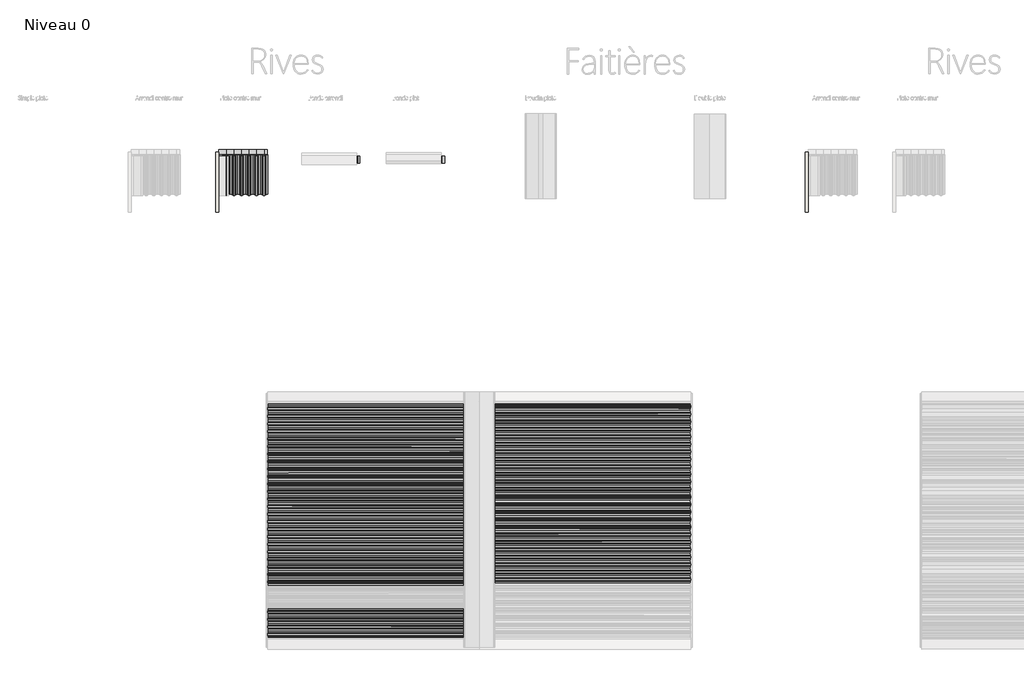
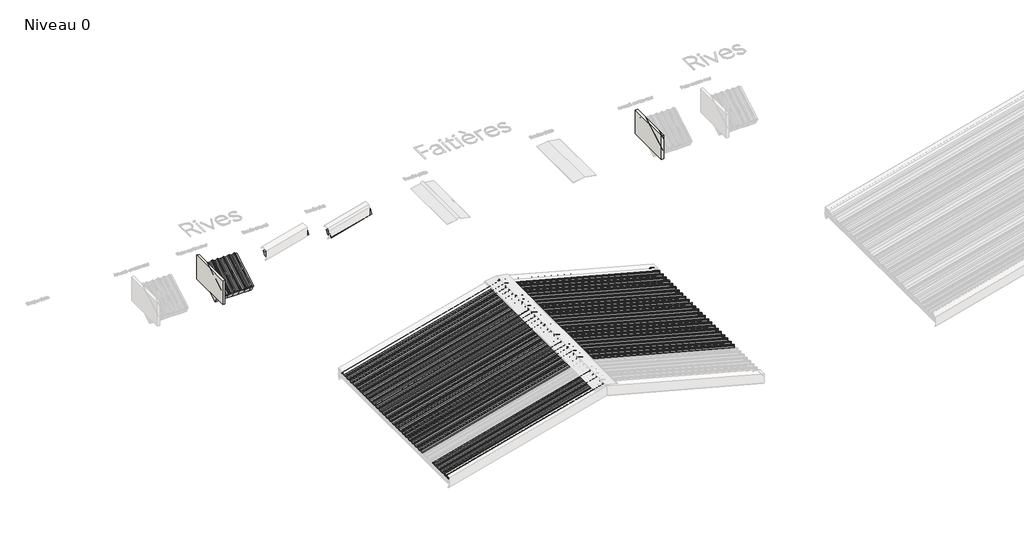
# One storey, part 2 of 26: 69 plates, 61 members, 2 walls.
"""IFC4 building model written with IfcOpenShell, lengths in millimetres."""

from ifc_helpers import new_model, si_unit, origin, origin_with_axes, place, context, project, spatial, polyline, outline, extrude, transform, mapped, element, save
from components import meneau_rectangulaire_3ecfb573, meneau_rectangulaire_c6909a84, vide_8d6fe587, vide_3626a5d1, vide_4c8c02ac, vide_0bd5e38c, vide_01bff3c3, vide_253f0f0f, vide_02c59cd9, vide_5da8b72d

model = new_model("IFC4")

# Units and contexts
model_context = context("Model", 3, world=origin())
ifc_project = project(units=[si_unit("LENGTHUNIT", "METRE", prefix="MILLI")], contexts=[model_context])

# Site, building, storey
site = spatial("IfcSite", under=ifc_project)
building = spatial("IfcBuilding", under=site)
storey = spatial("IfcBuildingStorey", under=building, Name="Niveau 0", Elevation=0.0)

# Members
placement = place(None, origin())
meneau_rectangulaire_shape = meneau_rectangulaire_3ecfb573(model_context)
element("IfcMember", 1, ObjectType="Meneau rectangulaire : Regolare 800", at=placement, inside=storey, context=model_context, shape_type="MappedRepresentation", body=[
    mapped(meneau_rectangulaire_shape, transform((328.6564984, -8904.2596825, 269.9457298), x_axis=(1.0, 0.0, 0.0), y_axis=(0.0, 0.5000000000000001, -0.8660254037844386), z_axis=(0.0, 0.8660254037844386, 0.5000000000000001))),
])
element("IfcMember", 2, ObjectType="Meneau rectangulaire : Regolare 800", at=placement, inside=storey, context=model_context, shape_type="MappedRepresentation", body=[
    mapped(meneau_rectangulaire_shape, transform((417.6564984, -8904.2596825, 269.9457298), x_axis=(1.0, 0.0, 0.0), y_axis=(0.0, 0.5000000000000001, -0.8660254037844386), z_axis=(0.0, 0.8660254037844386, 0.5000000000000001))),
])
element("IfcMember", 3, ObjectType="Meneau rectangulaire : Regolare 800", at=placement, inside=storey, context=model_context, shape_type="MappedRepresentation", body=[
    mapped(meneau_rectangulaire_shape, transform((506.6564984, -8904.2596825, 269.9457298), x_axis=(1.0, 0.0, 0.0), y_axis=(0.0, 0.5000000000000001, -0.8660254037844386), z_axis=(0.0, 0.8660254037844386, 0.5000000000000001))),
])
element("IfcMember", 4, ObjectType="Meneau rectangulaire : Regolare 800", at=placement, inside=storey, context=model_context, shape_type="MappedRepresentation", body=[
    mapped(meneau_rectangulaire_shape, transform((595.6564984, -8904.2596825, 269.9457298), x_axis=(1.0, 0.0, 0.0), y_axis=(0.0, 0.5000000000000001, -0.8660254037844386), z_axis=(0.0, 0.8660254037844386, 0.5000000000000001))),
])
element("IfcMember", 5, ObjectType="Meneau rectangulaire : Regolare 800", at=placement, inside=storey, context=model_context, shape_type="MappedRepresentation", body=[
    mapped(meneau_rectangulaire_shape, transform((684.6564984, -8904.2596825, 269.9457298), x_axis=(1.0, 0.0, 0.0), y_axis=(0.0, 0.5000000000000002, -0.8660254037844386), z_axis=(0.0, 0.8660254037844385, 0.5000000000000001))),
])
element("IfcMember", 6, ObjectType="Meneau rectangulaire : Regolare 800", at=placement, inside=storey, context=model_context, shape_type="MappedRepresentation", body=[
    mapped(meneau_rectangulaire_shape, transform((773.6564984, -8904.2596825, 269.9457298), x_axis=(1.0, 0.0, 0.0), y_axis=(0.0, 0.5000000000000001, -0.8660254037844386), z_axis=(0.0, 0.8660254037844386, 0.5000000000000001))),
])
meneau_rectangulaire_2_shape = meneau_rectangulaire_c6909a84(model_context)
element("IfcMember", 7, ObjectType="Meneau rectangulaire : Regolare 800", at=placement, inside=storey, context=model_context, shape_type="MappedRepresentation", body=[
    mapped(meneau_rectangulaire_2_shape, transform((3316.3996071, -13911.4337094, 669.8729811), x_axis=(0.0, 1.0, 0.0), y_axis=(-0.25881904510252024, 0.0, -0.9659258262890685), z_axis=(-0.9659258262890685, 0.0, 0.25881904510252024))),
])
element("IfcMember", 8, ObjectType="Meneau rectangulaire : Regolare 800", at=placement, inside=storey, context=model_context, shape_type="MappedRepresentation", body=[
    mapped(meneau_rectangulaire_2_shape, transform((3316.3996071, -13822.4337094, 669.8729811), x_axis=(0.0, 1.0, 0.0), y_axis=(-0.25881904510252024, 0.0, -0.9659258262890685), z_axis=(-0.9659258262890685, 0.0, 0.25881904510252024))),
])
element("IfcMember", 9, ObjectType="Meneau rectangulaire : Regolare 800", at=placement, inside=storey, context=model_context, shape_type="MappedRepresentation", body=[
    mapped(meneau_rectangulaire_2_shape, transform((3316.3996071, -13733.4337094, 669.8729811), x_axis=(0.0, 1.0, 0.0), y_axis=(-0.25881904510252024, 0.0, -0.9659258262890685), z_axis=(-0.9659258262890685, 0.0, 0.25881904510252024))),
])
element("IfcMember", 10, ObjectType="Meneau rectangulaire : Regolare 800", at=placement, inside=storey, context=model_context, shape_type="MappedRepresentation", body=[
    mapped(meneau_rectangulaire_2_shape, transform((3316.3996071, -13644.4337094, 669.8729811), x_axis=(0.0, 1.0, 0.0), y_axis=(-0.25881904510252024, 0.0, -0.9659258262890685), z_axis=(-0.9659258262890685, 0.0, 0.25881904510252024))),
])
element("IfcMember", 11, ObjectType="Meneau rectangulaire : Regolare 800", at=placement, inside=storey, context=model_context, shape_type="MappedRepresentation", body=[
    mapped(meneau_rectangulaire_2_shape, transform((3316.3996071, -13555.4337094, 669.8729811), x_axis=(0.0, 1.0, 0.0), y_axis=(-0.25881904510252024, 0.0, -0.9659258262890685), z_axis=(-0.9659258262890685, 0.0, 0.25881904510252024))),
])
element("IfcMember", 12, ObjectType="Meneau rectangulaire : Regolare 800", at=placement, inside=storey, context=model_context, shape_type="MappedRepresentation", body=[
    mapped(meneau_rectangulaire_2_shape, transform((3316.3996071, -13466.4337094, 669.8729811), x_axis=(0.0, 1.0, 0.0), y_axis=(-0.25881904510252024, 0.0, -0.9659258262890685), z_axis=(-0.9659258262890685, 0.0, 0.25881904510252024))),
])
element("IfcMember", 13, ObjectType="Meneau rectangulaire : Regolare 800", at=placement, inside=storey, context=model_context, shape_type="MappedRepresentation", body=[
    mapped(meneau_rectangulaire_2_shape, transform((3316.3996071, -13377.4337094, 669.8729811), x_axis=(0.0, 1.0, 0.0), y_axis=(-0.25881904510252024, 0.0, -0.9659258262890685), z_axis=(-0.9659258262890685, 0.0, 0.25881904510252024))),
])
element("IfcMember", 14, ObjectType="Meneau rectangulaire : Regolare 800", at=placement, inside=storey, context=model_context, shape_type="MappedRepresentation", body=[
    mapped(meneau_rectangulaire_2_shape, transform((3316.3996071, -13288.4337094, 669.8729811), x_axis=(0.0, 1.0, 0.0), y_axis=(-0.25881904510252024, 0.0, -0.9659258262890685), z_axis=(-0.9659258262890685, 0.0, 0.25881904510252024))),
])
element("IfcMember", 15, ObjectType="Meneau rectangulaire : Regolare 800", at=placement, inside=storey, context=model_context, shape_type="MappedRepresentation", body=[
    mapped(meneau_rectangulaire_2_shape, transform((3316.3996071, -13199.4337094, 669.8729811), x_axis=(0.0, 1.0, 0.0), y_axis=(-0.25881904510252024, 0.0, -0.9659258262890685), z_axis=(-0.9659258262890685, 0.0, 0.25881904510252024))),
])
element("IfcMember", 16, ObjectType="Meneau rectangulaire : Regolare 800", at=placement, inside=storey, context=model_context, shape_type="MappedRepresentation", body=[
    mapped(meneau_rectangulaire_2_shape, transform((3316.3996071, -13110.4337094, 669.8729811), x_axis=(0.0, 1.0, 0.0), y_axis=(-0.25881904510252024, 0.0, -0.9659258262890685), z_axis=(-0.9659258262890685, 0.0, 0.25881904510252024))),
])
element("IfcMember", 17, ObjectType="Meneau rectangulaire : Regolare 800", at=placement, inside=storey, context=model_context, shape_type="MappedRepresentation", body=[
    mapped(meneau_rectangulaire_2_shape, transform((3316.3996071, -13021.4337094, 669.8729811), x_axis=(0.0, 1.0, 0.0), y_axis=(-0.25881904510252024, 0.0, -0.9659258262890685), z_axis=(-0.9659258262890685, 0.0, 0.25881904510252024))),
])
element("IfcMember", 18, ObjectType="Meneau rectangulaire : Regolare 800", at=placement, inside=storey, context=model_context, shape_type="MappedRepresentation", body=[
    mapped(meneau_rectangulaire_2_shape, transform((3316.3996071, -12932.4337094, 669.8729811), x_axis=(0.0, 1.0, 0.0), y_axis=(-0.25881904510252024, 0.0, -0.9659258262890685), z_axis=(-0.9659258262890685, 0.0, 0.25881904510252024))),
])
element("IfcMember", 19, ObjectType="Meneau rectangulaire : Regolare 800", at=placement, inside=storey, context=model_context, shape_type="MappedRepresentation", body=[
    mapped(meneau_rectangulaire_2_shape, transform((3316.3996071, -12843.4337094, 669.8729811), x_axis=(0.0, 1.0, 0.0), y_axis=(-0.25881904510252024, 0.0, -0.9659258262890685), z_axis=(-0.9659258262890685, 0.0, 0.25881904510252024))),
])
element("IfcMember", 20, ObjectType="Meneau rectangulaire : Regolare 800", at=placement, inside=storey, context=model_context, shape_type="MappedRepresentation", body=[
    mapped(meneau_rectangulaire_2_shape, transform((3316.3996071, -12754.4337094, 669.8729811), x_axis=(0.0, 1.0, 0.0), y_axis=(-0.25881904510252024, 0.0, -0.9659258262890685), z_axis=(-0.9659258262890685, 0.0, 0.25881904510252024))),
])
element("IfcMember", 21, ObjectType="Meneau rectangulaire : Regolare 800", at=placement, inside=storey, context=model_context, shape_type="MappedRepresentation", body=[
    mapped(meneau_rectangulaire_2_shape, transform((3316.3996071, -12665.4337094, 669.8729811), x_axis=(0.0, 1.0, 0.0), y_axis=(-0.25881904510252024, 0.0, -0.9659258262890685), z_axis=(-0.9659258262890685, 0.0, 0.25881904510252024))),
])
element("IfcMember", 22, ObjectType="Meneau rectangulaire : Regolare 800", at=placement, inside=storey, context=model_context, shape_type="MappedRepresentation", body=[
    mapped(meneau_rectangulaire_2_shape, transform((3316.3996071, -12576.4337094, 669.8729811), x_axis=(0.0, 1.0, 0.0), y_axis=(-0.25881904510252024, 0.0, -0.9659258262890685), z_axis=(-0.9659258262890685, 0.0, 0.25881904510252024))),
])
element("IfcMember", 23, ObjectType="Meneau rectangulaire : Regolare 800", at=placement, inside=storey, context=model_context, shape_type="MappedRepresentation", body=[
    mapped(meneau_rectangulaire_2_shape, transform((3316.3996071, -12487.4337094, 669.8729811), x_axis=(0.0, 1.0, 0.0), y_axis=(-0.25881904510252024, 0.0, -0.9659258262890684), z_axis=(-0.9659258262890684, 0.0, 0.25881904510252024))),
])
element("IfcMember", 24, ObjectType="Meneau rectangulaire : Regolare 800", at=placement, inside=storey, context=model_context, shape_type="MappedRepresentation", body=[
    mapped(meneau_rectangulaire_2_shape, transform((3316.3996071, -12398.4337094, 669.8729811), x_axis=(0.0, 1.0, 0.0), y_axis=(-0.25881904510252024, 0.0, -0.9659258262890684), z_axis=(-0.9659258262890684, 0.0, 0.25881904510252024))),
])
element("IfcMember", 25, ObjectType="Meneau rectangulaire : Regolare 800", at=placement, inside=storey, context=model_context, shape_type="MappedRepresentation", body=[
    mapped(meneau_rectangulaire_2_shape, transform((3316.3996071, -12309.4337094, 669.8729811), x_axis=(0.0, 1.0, 0.0), y_axis=(-0.25881904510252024, 0.0, -0.9659258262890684), z_axis=(-0.9659258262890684, 0.0, 0.25881904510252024))),
])
element("IfcMember", 26, ObjectType="Meneau rectangulaire : Regolare 800", at=placement, inside=storey, context=model_context, shape_type="MappedRepresentation", body=[
    mapped(meneau_rectangulaire_2_shape, transform((3316.3996071, -12220.4337094, 669.8729811), x_axis=(0.0, 1.0, 0.0), y_axis=(-0.25881904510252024, 0.0, -0.9659258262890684), z_axis=(-0.9659258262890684, 0.0, 0.25881904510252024))),
])
element("IfcMember", 27, ObjectType="Meneau rectangulaire : Regolare 800", at=placement, inside=storey, context=model_context, shape_type="MappedRepresentation", body=[
    mapped(meneau_rectangulaire_2_shape, transform((3316.3996071, -12131.4337094, 669.8729811), x_axis=(0.0, 1.0, 0.0), y_axis=(-0.25881904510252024, 0.0, -0.9659258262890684), z_axis=(-0.9659258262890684, 0.0, 0.25881904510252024))),
])
element("IfcMember", 28, ObjectType="Meneau rectangulaire : Regolare 800", at=placement, inside=storey, context=model_context, shape_type="MappedRepresentation", body=[
    mapped(meneau_rectangulaire_2_shape, transform((3316.3996071, -12042.4337094, 669.8729811), x_axis=(0.0, 1.0, 0.0), y_axis=(-0.25881904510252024, 0.0, -0.9659258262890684), z_axis=(-0.9659258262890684, 0.0, 0.25881904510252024))),
])
element("IfcMember", 29, ObjectType="Meneau rectangulaire : Regolare 800", at=placement, inside=storey, context=model_context, shape_type="MappedRepresentation", body=[
    mapped(meneau_rectangulaire_2_shape, transform((3316.3996071, -11953.4337094, 669.8729811), x_axis=(0.0, 1.0, 0.0), y_axis=(-0.25881904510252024, 0.0, -0.9659258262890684), z_axis=(-0.9659258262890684, 0.0, 0.25881904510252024))),
])
element("IfcMember", 30, ObjectType="Meneau rectangulaire : Regolare 800", at=placement, inside=storey, context=model_context, shape_type="MappedRepresentation", body=[
    mapped(meneau_rectangulaire_2_shape, transform((3316.3996071, -11864.4337094, 669.8729811), x_axis=(0.0, 1.0, 0.0), y_axis=(-0.25881904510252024, 0.0, -0.9659258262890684), z_axis=(-0.9659258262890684, 0.0, 0.25881904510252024))),
])
element("IfcMember", 31, ObjectType="Meneau rectangulaire : Regolare 800", at=placement, inside=storey, context=model_context, shape_type="MappedRepresentation", body=[
    mapped(meneau_rectangulaire_2_shape, transform((3316.3996071, -11775.4337094, 669.8729811), x_axis=(0.0, 1.0, 0.0), y_axis=(-0.25881904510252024, 0.0, -0.9659258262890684), z_axis=(-0.9659258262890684, 0.0, 0.25881904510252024))),
])
element("IfcMember", 32, ObjectType="Meneau rectangulaire : Regolare 800", at=placement, inside=storey, context=model_context, shape_type="MappedRepresentation", body=[
    mapped(meneau_rectangulaire_2_shape, transform((3316.3996071, -11801.43371, 669.8729811), x_axis=(0.0, -1.0, 0.0), y_axis=(0.25881904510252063, 0.0, -0.9659258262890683), z_axis=(0.9659258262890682, 0.0, 0.2588190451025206))),
])
element("IfcMember", 33, ObjectType="Meneau rectangulaire : Regolare 800", at=placement, inside=storey, context=model_context, shape_type="MappedRepresentation", body=[
    mapped(meneau_rectangulaire_2_shape, transform((3316.3996071, -11890.43371, 669.8729811), x_axis=(0.0, -1.0, 0.0), y_axis=(0.25881904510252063, 0.0, -0.9659258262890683), z_axis=(0.9659258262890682, 0.0, 0.2588190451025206))),
])
element("IfcMember", 34, ObjectType="Meneau rectangulaire : Regolare 800", at=placement, inside=storey, context=model_context, shape_type="MappedRepresentation", body=[
    mapped(meneau_rectangulaire_2_shape, transform((3316.3996071, -11979.43371, 669.8729811), x_axis=(0.0, -1.0, 0.0), y_axis=(0.25881904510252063, 0.0, -0.9659258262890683), z_axis=(0.9659258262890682, 0.0, 0.2588190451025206))),
])
element("IfcMember", 35, ObjectType="Meneau rectangulaire : Regolare 800", at=placement, inside=storey, context=model_context, shape_type="MappedRepresentation", body=[
    mapped(meneau_rectangulaire_2_shape, transform((3316.3996071, -12068.43371, 669.8729811), x_axis=(0.0, -1.0, 0.0), y_axis=(0.25881904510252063, 0.0, -0.9659258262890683), z_axis=(0.9659258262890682, 0.0, 0.2588190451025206))),
])
element("IfcMember", 36, ObjectType="Meneau rectangulaire : Regolare 800", at=placement, inside=storey, context=model_context, shape_type="MappedRepresentation", body=[
    mapped(meneau_rectangulaire_2_shape, transform((3316.3996071, -12157.43371, 669.8729811), x_axis=(0.0, -1.0, 0.0), y_axis=(0.25881904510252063, 0.0, -0.9659258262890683), z_axis=(0.9659258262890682, 0.0, 0.2588190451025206))),
])
element("IfcMember", 37, ObjectType="Meneau rectangulaire : Regolare 800", at=placement, inside=storey, context=model_context, shape_type="MappedRepresentation", body=[
    mapped(meneau_rectangulaire_2_shape, transform((3316.3996071, -12246.43371, 669.8729811), x_axis=(0.0, -1.0, 0.0), y_axis=(0.25881904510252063, 0.0, -0.9659258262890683), z_axis=(0.9659258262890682, 0.0, 0.2588190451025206))),
])
element("IfcMember", 38, ObjectType="Meneau rectangulaire : Regolare 800", at=placement, inside=storey, context=model_context, shape_type="MappedRepresentation", body=[
    mapped(meneau_rectangulaire_2_shape, transform((3316.3996071, -12335.43371, 669.8729811), x_axis=(0.0, -1.0, 0.0), y_axis=(0.25881904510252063, 0.0, -0.9659258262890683), z_axis=(0.9659258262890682, 0.0, 0.2588190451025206))),
])
element("IfcMember", 39, ObjectType="Meneau rectangulaire : Regolare 800", at=placement, inside=storey, context=model_context, shape_type="MappedRepresentation", body=[
    mapped(meneau_rectangulaire_2_shape, transform((3316.3996071, -12424.43371, 669.8729811), x_axis=(0.0, -1.0, 0.0), y_axis=(0.25881904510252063, 0.0, -0.9659258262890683), z_axis=(0.9659258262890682, 0.0, 0.2588190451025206))),
])
element("IfcMember", 40, ObjectType="Meneau rectangulaire : Regolare 800", at=placement, inside=storey, context=model_context, shape_type="MappedRepresentation", body=[
    mapped(meneau_rectangulaire_2_shape, transform((3316.3996071, -12513.43371, 669.8729811), x_axis=(0.0, -1.0, 0.0), y_axis=(0.25881904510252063, 0.0, -0.9659258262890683), z_axis=(0.9659258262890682, 0.0, 0.2588190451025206))),
])
element("IfcMember", 41, ObjectType="Meneau rectangulaire : Regolare 800", at=placement, inside=storey, context=model_context, shape_type="MappedRepresentation", body=[
    mapped(meneau_rectangulaire_2_shape, transform((3316.3996071, -12602.43371, 669.8729811), x_axis=(0.0, -1.0, 0.0), y_axis=(0.25881904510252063, 0.0, -0.9659258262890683), z_axis=(0.9659258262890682, 0.0, 0.2588190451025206))),
])
element("IfcMember", 42, ObjectType="Meneau rectangulaire : Regolare 800", at=placement, inside=storey, context=model_context, shape_type="MappedRepresentation", body=[
    mapped(meneau_rectangulaire_2_shape, transform((3316.3996071, -12691.43371, 669.8729811), x_axis=(0.0, -1.0, 0.0), y_axis=(0.25881904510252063, 0.0, -0.9659258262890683), z_axis=(0.9659258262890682, 0.0, 0.2588190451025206))),
])
element("IfcMember", 43, ObjectType="Meneau rectangulaire : Regolare 800", at=placement, inside=storey, context=model_context, shape_type="MappedRepresentation", body=[
    mapped(meneau_rectangulaire_2_shape, transform((3316.3996071, -12780.43371, 669.8729811), x_axis=(0.0, -1.0, 0.0), y_axis=(0.25881904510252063, 0.0, -0.9659258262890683), z_axis=(0.9659258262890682, 0.0, 0.2588190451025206))),
])
element("IfcMember", 44, ObjectType="Meneau rectangulaire : Regolare 800", at=placement, inside=storey, context=model_context, shape_type="MappedRepresentation", body=[
    mapped(meneau_rectangulaire_2_shape, transform((3316.3996071, -12869.43371, 669.8729811), x_axis=(0.0, -1.0, 0.0), y_axis=(0.25881904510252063, 0.0, -0.9659258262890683), z_axis=(0.9659258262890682, 0.0, 0.2588190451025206))),
])
element("IfcMember", 45, ObjectType="Meneau rectangulaire : Regolare 800", at=placement, inside=storey, context=model_context, shape_type="MappedRepresentation", body=[
    mapped(meneau_rectangulaire_2_shape, transform((3316.3996071, -12958.43371, 669.8729811), x_axis=(0.0, -1.0, 0.0), y_axis=(0.25881904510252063, 0.0, -0.9659258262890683), z_axis=(0.9659258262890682, 0.0, 0.2588190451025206))),
])
element("IfcMember", 46, ObjectType="Meneau rectangulaire : Regolare 800", at=placement, inside=storey, context=model_context, shape_type="MappedRepresentation", body=[
    mapped(meneau_rectangulaire_2_shape, transform((3316.3996071, -13047.43371, 669.8729811), x_axis=(0.0, -1.0, 0.0), y_axis=(0.25881904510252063, 0.0, -0.9659258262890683), z_axis=(0.9659258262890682, 0.0, 0.2588190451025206))),
])
element("IfcMember", 47, ObjectType="Meneau rectangulaire : Regolare 800", at=placement, inside=storey, context=model_context, shape_type="MappedRepresentation", body=[
    mapped(meneau_rectangulaire_2_shape, transform((3316.3996071, -13136.43371, 669.8729811), x_axis=(0.0, -1.0, 0.0), y_axis=(0.25881904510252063, 0.0, -0.9659258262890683), z_axis=(0.9659258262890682, 0.0, 0.2588190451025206))),
])
element("IfcMember", 48, ObjectType="Meneau rectangulaire : Regolare 800", at=placement, inside=storey, context=model_context, shape_type="MappedRepresentation", body=[
    mapped(meneau_rectangulaire_2_shape, transform((3316.3996071, -13225.43371, 669.8729811), x_axis=(0.0, -1.0, 0.0), y_axis=(0.25881904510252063, 0.0, -0.9659258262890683), z_axis=(0.9659258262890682, 0.0, 0.2588190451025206))),
])
element("IfcMember", 49, ObjectType="Meneau rectangulaire : Regolare 800", at=placement, inside=storey, context=model_context, shape_type="MappedRepresentation", body=[
    mapped(meneau_rectangulaire_2_shape, transform((3316.3996071, -13314.43371, 669.8729811), x_axis=(0.0, -1.0, 0.0), y_axis=(0.25881904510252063, 0.0, -0.9659258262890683), z_axis=(0.9659258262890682, 0.0, 0.2588190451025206))),
])
element("IfcMember", 50, ObjectType="Meneau rectangulaire : Regolare 800", at=placement, inside=storey, context=model_context, shape_type="MappedRepresentation", body=[
    mapped(meneau_rectangulaire_2_shape, transform((3316.3996071, -13403.43371, 669.8729811), x_axis=(0.0, -1.0, 0.0), y_axis=(0.25881904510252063, 0.0, -0.9659258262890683), z_axis=(0.9659258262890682, 0.0, 0.2588190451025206))),
])
element("IfcMember", 51, ObjectType="Meneau rectangulaire : Regolare 800", at=placement, inside=storey, context=model_context, shape_type="MappedRepresentation", body=[
    mapped(meneau_rectangulaire_2_shape, transform((3316.3996071, -13492.43371, 669.8729811), x_axis=(0.0, -1.0, 0.0), y_axis=(0.25881904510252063, 0.0, -0.9659258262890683), z_axis=(0.9659258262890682, 0.0, 0.2588190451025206))),
])
element("IfcMember", 52, ObjectType="Meneau rectangulaire : Regolare 800", at=placement, inside=storey, context=model_context, shape_type="MappedRepresentation", body=[
    mapped(meneau_rectangulaire_2_shape, transform((3316.3996071, -13581.43371, 669.8729811), x_axis=(0.0, -1.0, 0.0), y_axis=(0.25881904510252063, 0.0, -0.9659258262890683), z_axis=(0.9659258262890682, 0.0, 0.2588190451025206))),
])
element("IfcMember", 53, ObjectType="Meneau rectangulaire : Regolare 800", at=placement, inside=storey, context=model_context, shape_type="MappedRepresentation", body=[
    mapped(meneau_rectangulaire_2_shape, transform((3316.3996071, -13670.43371, 669.8729811), x_axis=(0.0, -1.0, 0.0), y_axis=(0.25881904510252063, 0.0, -0.9659258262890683), z_axis=(0.9659258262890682, 0.0, 0.2588190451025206))),
])
element("IfcMember", 54, ObjectType="Meneau rectangulaire : Regolare 800", at=placement, inside=storey, context=model_context, shape_type="MappedRepresentation", body=[
    mapped(meneau_rectangulaire_2_shape, transform((3316.3996071, -13759.43371, 669.8729811), x_axis=(0.0, -1.0, 0.0), y_axis=(0.25881904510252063, 0.0, -0.9659258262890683), z_axis=(0.9659258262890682, 0.0, 0.2588190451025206))),
])
element("IfcMember", 55, ObjectType="Meneau rectangulaire : Regolare 800", at=placement, inside=storey, context=model_context, shape_type="MappedRepresentation", body=[
    mapped(meneau_rectangulaire_2_shape, transform((3316.3996071, -13848.43371, 669.8729811), x_axis=(0.0, -1.0, 0.0), y_axis=(0.25881904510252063, 0.0, -0.9659258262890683), z_axis=(0.9659258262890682, 0.0, 0.2588190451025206))),
])
element("IfcMember", 56, ObjectType="Meneau rectangulaire : Regolare 800", at=placement, inside=storey, context=model_context, shape_type="MappedRepresentation", body=[
    mapped(meneau_rectangulaire_2_shape, transform((3316.3996071, -13937.43371, 669.8729811), x_axis=(0.0, -1.0, 0.0), y_axis=(0.25881904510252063, 0.0, -0.9659258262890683), z_axis=(0.9659258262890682, 0.0, 0.2588190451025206))),
])
element("IfcMember", 57, ObjectType="Meneau rectangulaire : Regolare 800", at=placement, inside=storey, context=model_context, shape_type="MappedRepresentation", body=[
    mapped(meneau_rectangulaire_2_shape, transform((3316.3996071, -14293.43371, 669.8729811), x_axis=(0.0, -1.0, 0.0), y_axis=(0.25881904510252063, 0.0, -0.9659258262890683), z_axis=(0.9659258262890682, 0.0, 0.2588190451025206))),
])
element("IfcMember", 58, ObjectType="Meneau rectangulaire : Regolare 800", at=placement, inside=storey, context=model_context, shape_type="MappedRepresentation", body=[
    mapped(meneau_rectangulaire_2_shape, transform((3316.3996071, -14382.43371, 669.8729811), x_axis=(0.0, -1.0, 0.0), y_axis=(0.25881904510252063, 0.0, -0.9659258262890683), z_axis=(0.9659258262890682, 0.0, 0.2588190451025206))),
])
element("IfcMember", 59, ObjectType="Meneau rectangulaire : Regolare 800", at=placement, inside=storey, context=model_context, shape_type="MappedRepresentation", body=[
    mapped(meneau_rectangulaire_2_shape, transform((3316.3996071, -14471.43371, 669.8729811), x_axis=(0.0, -1.0, 0.0), y_axis=(0.25881904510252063, 0.0, -0.9659258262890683), z_axis=(0.9659258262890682, 0.0, 0.2588190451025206))),
])
element("IfcMember", 60, ObjectType="Meneau rectangulaire : Regolare 800", at=placement, inside=storey, context=model_context, shape_type="MappedRepresentation", body=[
    mapped(meneau_rectangulaire_2_shape, transform((3316.3996071, -14560.43371, 669.8729811), x_axis=(0.0, -1.0, 0.0), y_axis=(0.25881904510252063, 0.0, -0.9659258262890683), z_axis=(0.9659258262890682, 0.0, 0.2588190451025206))),
])
element("IfcMember", 61, ObjectType="Meneau rectangulaire : Regolare 800", at=placement, inside=storey, context=model_context, shape_type="MappedRepresentation", body=[
    mapped(meneau_rectangulaire_2_shape, transform((3316.3996071, -14649.43371, 669.8729811), x_axis=(0.0, -1.0, 0.0), y_axis=(0.25881904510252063, 0.0, -0.9659258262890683), z_axis=(0.9659258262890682, 0.0, 0.2588190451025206))),
])

# Plates
vide_shape = vide_8d6fe587(model_context)
element("IfcPlate", 62, ObjectType="Panneau système vide : Vide", at=placement, inside=storey, context=model_context, shape_type="MappedRepresentation", body=[
    mapped(vide_shape, transform((816.3996071, -11756.9337098, 0.0), x_axis=(0.0, -1.0, 0.0), y_axis=(0.2588190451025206, 0.0, -0.9659258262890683), z_axis=(0.9659258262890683, 0.0, 0.2588190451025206))),
])
element("IfcPlate", 63, ObjectType="Panneau système vide : Vide", at=placement, inside=storey, context=model_context, shape_type="MappedRepresentation", body=[
    mapped(vide_shape, transform((5816.3996071, -14667.9337095, 0.0), x_axis=(0.0, 1.0, 0.0), y_axis=(-0.25881904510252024, 0.0, -0.9659258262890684), z_axis=(-0.9659258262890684, 0.0, 0.25881904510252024))),
])
vide_2_shape = vide_3626a5d1(model_context)
element("IfcPlate", 64, ObjectType="Panneau système vide : Vide", at=placement, inside=storey, context=model_context, shape_type="MappedRepresentation", body=[
    mapped(vide_2_shape, transform((816.3996071, -11845.93371, 0.0), x_axis=(0.0, -1.0, 0.0), y_axis=(0.2588190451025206, 0.0, -0.9659258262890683), z_axis=(0.9659258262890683, 0.0, 0.2588190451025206))),
])
element("IfcPlate", 65, ObjectType="Panneau système vide : Vide", at=placement, inside=storey, context=model_context, shape_type="MappedRepresentation", body=[
    mapped(vide_2_shape, transform((816.3996071, -11934.93371, 0.0), x_axis=(0.0, -1.0, 0.0), y_axis=(0.2588190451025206, 0.0, -0.9659258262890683), z_axis=(0.9659258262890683, 0.0, 0.2588190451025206))),
])
element("IfcPlate", 66, ObjectType="Panneau système vide : Vide", at=placement, inside=storey, context=model_context, shape_type="MappedRepresentation", body=[
    mapped(vide_2_shape, transform((816.3996071, -12023.93371, 0.0), x_axis=(0.0, -1.0, 0.0), y_axis=(0.2588190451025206, 0.0, -0.9659258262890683), z_axis=(0.9659258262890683, 0.0, 0.2588190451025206))),
])
element("IfcPlate", 67, ObjectType="Panneau système vide : Vide", at=placement, inside=storey, context=model_context, shape_type="MappedRepresentation", body=[
    mapped(vide_2_shape, transform((816.3996071, -12112.93371, 0.0), x_axis=(0.0, -1.0, 0.0), y_axis=(0.2588190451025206, 0.0, -0.9659258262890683), z_axis=(0.9659258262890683, 0.0, 0.2588190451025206))),
])
element("IfcPlate", 68, ObjectType="Panneau système vide : Vide", at=placement, inside=storey, context=model_context, shape_type="MappedRepresentation", body=[
    mapped(vide_2_shape, transform((816.3996071, -12201.93371, 0.0), x_axis=(0.0, -1.0, 0.0), y_axis=(0.2588190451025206, 0.0, -0.9659258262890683), z_axis=(0.9659258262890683, 0.0, 0.2588190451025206))),
])
element("IfcPlate", 69, ObjectType="Panneau système vide : Vide", at=placement, inside=storey, context=model_context, shape_type="MappedRepresentation", body=[
    mapped(vide_2_shape, transform((816.3996071, -12290.93371, 0.0), x_axis=(0.0, -1.0, 0.0), y_axis=(0.2588190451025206, 0.0, -0.9659258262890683), z_axis=(0.9659258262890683, 0.0, 0.2588190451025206))),
])
element("IfcPlate", 70, ObjectType="Panneau système vide : Vide", at=placement, inside=storey, context=model_context, shape_type="MappedRepresentation", body=[
    mapped(vide_2_shape, transform((816.3996071, -12379.93371, 0.0), x_axis=(0.0, -1.0, 0.0), y_axis=(0.2588190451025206, 0.0, -0.9659258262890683), z_axis=(0.9659258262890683, 0.0, 0.2588190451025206))),
])
element("IfcPlate", 71, ObjectType="Panneau système vide : Vide", at=placement, inside=storey, context=model_context, shape_type="MappedRepresentation", body=[
    mapped(vide_2_shape, transform((816.3996071, -12468.93371, 0.0), x_axis=(0.0, -1.0, 0.0), y_axis=(0.2588190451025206, 0.0, -0.9659258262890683), z_axis=(0.9659258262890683, 0.0, 0.2588190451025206))),
])
element("IfcPlate", 72, ObjectType="Panneau système vide : Vide", at=placement, inside=storey, context=model_context, shape_type="MappedRepresentation", body=[
    mapped(vide_2_shape, transform((816.3996071, -12557.93371, 0.0), x_axis=(0.0, -1.0, 0.0), y_axis=(0.2588190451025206, 0.0, -0.9659258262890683), z_axis=(0.9659258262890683, 0.0, 0.2588190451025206))),
])
element("IfcPlate", 73, ObjectType="Panneau système vide : Vide", at=placement, inside=storey, context=model_context, shape_type="MappedRepresentation", body=[
    mapped(vide_2_shape, transform((816.3996071, -12646.93371, 0.0), x_axis=(0.0, -1.0, 0.0), y_axis=(0.2588190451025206, 0.0, -0.9659258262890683), z_axis=(0.9659258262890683, 0.0, 0.2588190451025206))),
])
element("IfcPlate", 74, ObjectType="Panneau système vide : Vide", at=placement, inside=storey, context=model_context, shape_type="MappedRepresentation", body=[
    mapped(vide_2_shape, transform((816.3996071, -12735.93371, 0.0), x_axis=(0.0, -1.0, 0.0), y_axis=(0.2588190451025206, 0.0, -0.9659258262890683), z_axis=(0.9659258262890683, 0.0, 0.2588190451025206))),
])
element("IfcPlate", 75, ObjectType="Panneau système vide : Vide", at=placement, inside=storey, context=model_context, shape_type="MappedRepresentation", body=[
    mapped(vide_2_shape, transform((816.3996071, -12824.93371, 0.0), x_axis=(0.0, -1.0, 0.0), y_axis=(0.2588190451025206, 0.0, -0.9659258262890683), z_axis=(0.9659258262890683, 0.0, 0.2588190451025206))),
])
element("IfcPlate", 76, ObjectType="Panneau système vide : Vide", at=placement, inside=storey, context=model_context, shape_type="MappedRepresentation", body=[
    mapped(vide_2_shape, transform((816.3996071, -12913.93371, 0.0), x_axis=(0.0, -1.0, 0.0), y_axis=(0.2588190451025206, 0.0, -0.9659258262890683), z_axis=(0.9659258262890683, 0.0, 0.2588190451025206))),
])
element("IfcPlate", 77, ObjectType="Panneau système vide : Vide", at=placement, inside=storey, context=model_context, shape_type="MappedRepresentation", body=[
    mapped(vide_2_shape, transform((816.3996071, -13002.93371, 0.0), x_axis=(0.0, -1.0, 0.0), y_axis=(0.2588190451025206, 0.0, -0.9659258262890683), z_axis=(0.9659258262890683, 0.0, 0.2588190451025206))),
])
element("IfcPlate", 78, ObjectType="Panneau système vide : Vide", at=placement, inside=storey, context=model_context, shape_type="MappedRepresentation", body=[
    mapped(vide_2_shape, transform((816.3996071, -13091.93371, 0.0), x_axis=(0.0, -1.0, 0.0), y_axis=(0.2588190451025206, 0.0, -0.9659258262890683), z_axis=(0.9659258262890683, 0.0, 0.2588190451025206))),
])
element("IfcPlate", 79, ObjectType="Panneau système vide : Vide", at=placement, inside=storey, context=model_context, shape_type="MappedRepresentation", body=[
    mapped(vide_2_shape, transform((816.3996071, -13180.93371, 0.0), x_axis=(0.0, -1.0, 0.0), y_axis=(0.2588190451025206, 0.0, -0.9659258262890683), z_axis=(0.9659258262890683, 0.0, 0.2588190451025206))),
])
element("IfcPlate", 80, ObjectType="Panneau système vide : Vide", at=placement, inside=storey, context=model_context, shape_type="MappedRepresentation", body=[
    mapped(vide_2_shape, transform((816.3996071, -13269.93371, 0.0), x_axis=(0.0, -1.0, 0.0), y_axis=(0.2588190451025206, 0.0, -0.9659258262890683), z_axis=(0.9659258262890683, 0.0, 0.2588190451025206))),
])
element("IfcPlate", 81, ObjectType="Panneau système vide : Vide", at=placement, inside=storey, context=model_context, shape_type="MappedRepresentation", body=[
    mapped(vide_2_shape, transform((816.3996071, -13358.93371, 0.0), x_axis=(0.0, -1.0, 0.0), y_axis=(0.2588190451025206, 0.0, -0.9659258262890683), z_axis=(0.9659258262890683, 0.0, 0.2588190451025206))),
])
element("IfcPlate", 82, ObjectType="Panneau système vide : Vide", at=placement, inside=storey, context=model_context, shape_type="MappedRepresentation", body=[
    mapped(vide_2_shape, transform((816.3996071, -13447.93371, 0.0), x_axis=(0.0, -1.0, 0.0), y_axis=(0.2588190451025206, 0.0, -0.9659258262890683), z_axis=(0.9659258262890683, 0.0, 0.2588190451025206))),
])
element("IfcPlate", 83, ObjectType="Panneau système vide : Vide", at=placement, inside=storey, context=model_context, shape_type="MappedRepresentation", body=[
    mapped(vide_2_shape, transform((816.3996071, -13536.93371, 0.0), x_axis=(0.0, -1.0, 0.0), y_axis=(0.2588190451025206, 0.0, -0.9659258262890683), z_axis=(0.9659258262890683, 0.0, 0.2588190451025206))),
])
element("IfcPlate", 84, ObjectType="Panneau système vide : Vide", at=placement, inside=storey, context=model_context, shape_type="MappedRepresentation", body=[
    mapped(vide_2_shape, transform((816.3996071, -13625.93371, 0.0), x_axis=(0.0, -1.0, 0.0), y_axis=(0.2588190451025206, 0.0, -0.9659258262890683), z_axis=(0.9659258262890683, 0.0, 0.2588190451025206))),
])
element("IfcPlate", 85, ObjectType="Panneau système vide : Vide", at=placement, inside=storey, context=model_context, shape_type="MappedRepresentation", body=[
    mapped(vide_2_shape, transform((816.3996071, -13714.93371, 0.0), x_axis=(0.0, -1.0, 0.0), y_axis=(0.2588190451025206, 0.0, -0.9659258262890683), z_axis=(0.9659258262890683, 0.0, 0.2588190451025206))),
])
element("IfcPlate", 86, ObjectType="Panneau système vide : Vide", at=placement, inside=storey, context=model_context, shape_type="MappedRepresentation", body=[
    mapped(vide_2_shape, transform((816.3996071, -13803.93371, 0.0), x_axis=(0.0, -1.0, 0.0), y_axis=(0.2588190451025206, 0.0, -0.9659258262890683), z_axis=(0.9659258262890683, 0.0, 0.2588190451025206))),
])
element("IfcPlate", 87, ObjectType="Panneau système vide : Vide", at=placement, inside=storey, context=model_context, shape_type="MappedRepresentation", body=[
    mapped(vide_2_shape, transform((816.3996071, -13892.93371, 0.0), x_axis=(0.0, -1.0, 0.0), y_axis=(0.2588190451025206, 0.0, -0.9659258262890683), z_axis=(0.9659258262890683, 0.0, 0.2588190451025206))),
])
element("IfcPlate", 88, ObjectType="Panneau système vide : Vide", at=placement, inside=storey, context=model_context, shape_type="MappedRepresentation", body=[
    mapped(vide_2_shape, transform((816.3996071, -13981.93371, 0.0), x_axis=(0.0, -1.0, 0.0), y_axis=(0.2588190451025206, 0.0, -0.9659258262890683), z_axis=(0.9659258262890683, 0.0, 0.2588190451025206))),
])
element("IfcPlate", 89, ObjectType="Panneau système vide : Vide", at=placement, inside=storey, context=model_context, shape_type="MappedRepresentation", body=[
    mapped(vide_2_shape, transform((5816.3996071, -14578.9337094, 0.0), x_axis=(0.0, 1.0, 0.0), y_axis=(-0.25881904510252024, 0.0, -0.9659258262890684), z_axis=(-0.9659258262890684, 0.0, 0.25881904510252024))),
])
element("IfcPlate", 90, ObjectType="Panneau système vide : Vide", at=placement, inside=storey, context=model_context, shape_type="MappedRepresentation", body=[
    mapped(vide_2_shape, transform((5816.3996071, -14489.9337094, 0.0), x_axis=(0.0, 1.0, 0.0), y_axis=(-0.25881904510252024, 0.0, -0.9659258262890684), z_axis=(-0.9659258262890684, 0.0, 0.25881904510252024))),
])
element("IfcPlate", 91, ObjectType="Panneau système vide : Vide", at=placement, inside=storey, context=model_context, shape_type="MappedRepresentation", body=[
    mapped(vide_2_shape, transform((5816.3996071, -14400.9337094, 0.0), x_axis=(0.0, 1.0, 0.0), y_axis=(-0.25881904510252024, 0.0, -0.9659258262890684), z_axis=(-0.9659258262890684, 0.0, 0.25881904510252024))),
])
element("IfcPlate", 92, ObjectType="Panneau système vide : Vide", at=placement, inside=storey, context=model_context, shape_type="MappedRepresentation", body=[
    mapped(vide_2_shape, transform((5816.3996071, -14311.9337094, 0.0), x_axis=(0.0, 1.0, 0.0), y_axis=(-0.25881904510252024, 0.0, -0.9659258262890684), z_axis=(-0.9659258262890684, 0.0, 0.25881904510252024))),
])
element("IfcPlate", 93, ObjectType="Panneau système vide : Vide", at=placement, inside=storey, context=model_context, shape_type="MappedRepresentation", body=[
    mapped(vide_2_shape, transform((5816.3996071, -14222.9337094, 0.0), x_axis=(0.0, 1.0, 0.0), y_axis=(-0.25881904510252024, 0.0, -0.9659258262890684), z_axis=(-0.9659258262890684, 0.0, 0.25881904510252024))),
])
element("IfcPlate", 94, ObjectType="Panneau système vide : Vide", at=placement, inside=storey, context=model_context, shape_type="MappedRepresentation", body=[
    mapped(vide_2_shape, transform((5816.3996071, -14133.9337094, 0.0), x_axis=(0.0, 1.0, 0.0), y_axis=(-0.25881904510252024, 0.0, -0.9659258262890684), z_axis=(-0.9659258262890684, 0.0, 0.25881904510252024))),
])
element("IfcPlate", 95, ObjectType="Panneau système vide : Vide", at=placement, inside=storey, context=model_context, shape_type="MappedRepresentation", body=[
    mapped(vide_2_shape, transform((5816.3996071, -14044.9337094, 0.0), x_axis=(0.0, 1.0, 0.0), y_axis=(-0.25881904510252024, 0.0, -0.9659258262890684), z_axis=(-0.9659258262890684, 0.0, 0.25881904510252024))),
])
element("IfcPlate", 96, ObjectType="Panneau système vide : Vide", at=placement, inside=storey, context=model_context, shape_type="MappedRepresentation", body=[
    mapped(vide_2_shape, transform((5816.3996071, -13955.9337094, 0.0), x_axis=(0.0, 1.0, 0.0), y_axis=(-0.25881904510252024, 0.0, -0.9659258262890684), z_axis=(-0.9659258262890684, 0.0, 0.25881904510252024))),
])
element("IfcPlate", 97, ObjectType="Panneau système vide : Vide", at=placement, inside=storey, context=model_context, shape_type="MappedRepresentation", body=[
    mapped(vide_2_shape, transform((5816.3996071, -13866.9337094, 0.0), x_axis=(0.0, 1.0, 0.0), y_axis=(-0.25881904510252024, 0.0, -0.9659258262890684), z_axis=(-0.9659258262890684, 0.0, 0.25881904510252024))),
])
element("IfcPlate", 98, ObjectType="Panneau système vide : Vide", at=placement, inside=storey, context=model_context, shape_type="MappedRepresentation", body=[
    mapped(vide_2_shape, transform((5816.3996071, -13777.9337094, 0.0), x_axis=(0.0, 1.0, 0.0), y_axis=(-0.25881904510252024, 0.0, -0.9659258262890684), z_axis=(-0.9659258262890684, 0.0, 0.25881904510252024))),
])
element("IfcPlate", 99, ObjectType="Panneau système vide : Vide", at=placement, inside=storey, context=model_context, shape_type="MappedRepresentation", body=[
    mapped(vide_2_shape, transform((5816.3996071, -13688.9337094, 0.0), x_axis=(0.0, 1.0, 0.0), y_axis=(-0.25881904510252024, 0.0, -0.9659258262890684), z_axis=(-0.9659258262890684, 0.0, 0.25881904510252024))),
])
element("IfcPlate", 100, ObjectType="Panneau système vide : Vide", at=placement, inside=storey, context=model_context, shape_type="MappedRepresentation", body=[
    mapped(vide_2_shape, transform((5816.3996071, -13599.9337094, 0.0), x_axis=(0.0, 1.0, 0.0), y_axis=(-0.25881904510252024, 0.0, -0.9659258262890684), z_axis=(-0.9659258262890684, 0.0, 0.25881904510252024))),
])
element("IfcPlate", 101, ObjectType="Panneau système vide : Vide", at=placement, inside=storey, context=model_context, shape_type="MappedRepresentation", body=[
    mapped(vide_2_shape, transform((5816.3996071, -13510.9337094, 0.0), x_axis=(0.0, 1.0, 0.0), y_axis=(-0.25881904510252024, 0.0, -0.9659258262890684), z_axis=(-0.9659258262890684, 0.0, 0.25881904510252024))),
])
element("IfcPlate", 102, ObjectType="Panneau système vide : Vide", at=placement, inside=storey, context=model_context, shape_type="MappedRepresentation", body=[
    mapped(vide_2_shape, transform((5816.3996071, -13421.9337094, 0.0), x_axis=(0.0, 1.0, 0.0), y_axis=(-0.25881904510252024, 0.0, -0.9659258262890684), z_axis=(-0.9659258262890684, 0.0, 0.25881904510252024))),
])
element("IfcPlate", 103, ObjectType="Panneau système vide : Vide", at=placement, inside=storey, context=model_context, shape_type="MappedRepresentation", body=[
    mapped(vide_2_shape, transform((5816.3996071, -13332.9337094, 0.0), x_axis=(0.0, 1.0, 0.0), y_axis=(-0.25881904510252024, 0.0, -0.9659258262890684), z_axis=(-0.9659258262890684, 0.0, 0.25881904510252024))),
])
element("IfcPlate", 104, ObjectType="Panneau système vide : Vide", at=placement, inside=storey, context=model_context, shape_type="MappedRepresentation", body=[
    mapped(vide_2_shape, transform((5816.3996071, -13243.9337094, 0.0), x_axis=(0.0, 1.0, 0.0), y_axis=(-0.25881904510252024, 0.0, -0.9659258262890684), z_axis=(-0.9659258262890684, 0.0, 0.25881904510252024))),
])
element("IfcPlate", 105, ObjectType="Panneau système vide : Vide", at=placement, inside=storey, context=model_context, shape_type="MappedRepresentation", body=[
    mapped(vide_2_shape, transform((5816.3996071, -13154.9337094, 0.0), x_axis=(0.0, 1.0, 0.0), y_axis=(-0.25881904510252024, 0.0, -0.9659258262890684), z_axis=(-0.9659258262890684, 0.0, 0.25881904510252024))),
])
element("IfcPlate", 106, ObjectType="Panneau système vide : Vide", at=placement, inside=storey, context=model_context, shape_type="MappedRepresentation", body=[
    mapped(vide_2_shape, transform((5816.3996071, -13065.9337094, 0.0), x_axis=(0.0, 1.0, 0.0), y_axis=(-0.25881904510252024, 0.0, -0.9659258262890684), z_axis=(-0.9659258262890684, 0.0, 0.25881904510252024))),
])
element("IfcPlate", 107, ObjectType="Panneau système vide : Vide", at=placement, inside=storey, context=model_context, shape_type="MappedRepresentation", body=[
    mapped(vide_2_shape, transform((5816.3996071, -12976.9337094, 0.0), x_axis=(0.0, 1.0, 0.0), y_axis=(-0.25881904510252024, 0.0, -0.9659258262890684), z_axis=(-0.9659258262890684, 0.0, 0.25881904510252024))),
])
element("IfcPlate", 108, ObjectType="Panneau système vide : Vide", at=placement, inside=storey, context=model_context, shape_type="MappedRepresentation", body=[
    mapped(vide_2_shape, transform((5816.3996071, -12887.9337094, 0.0), x_axis=(0.0, 1.0, 0.0), y_axis=(-0.25881904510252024, 0.0, -0.9659258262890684), z_axis=(-0.9659258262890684, 0.0, 0.25881904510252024))),
])
element("IfcPlate", 109, ObjectType="Panneau système vide : Vide", at=placement, inside=storey, context=model_context, shape_type="MappedRepresentation", body=[
    mapped(vide_2_shape, transform((5816.3996071, -12798.9337094, 0.0), x_axis=(0.0, 1.0, 0.0), y_axis=(-0.25881904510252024, 0.0, -0.9659258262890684), z_axis=(-0.9659258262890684, 0.0, 0.25881904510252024))),
])
element("IfcPlate", 110, ObjectType="Panneau système vide : Vide", at=placement, inside=storey, context=model_context, shape_type="MappedRepresentation", body=[
    mapped(vide_2_shape, transform((5816.3996071, -12709.9337094, 0.0), x_axis=(0.0, 1.0, 0.0), y_axis=(-0.25881904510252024, 0.0, -0.9659258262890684), z_axis=(-0.9659258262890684, 0.0, 0.25881904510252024))),
])
element("IfcPlate", 111, ObjectType="Panneau système vide : Vide", at=placement, inside=storey, context=model_context, shape_type="MappedRepresentation", body=[
    mapped(vide_2_shape, transform((5816.3996071, -12620.9337094, 0.0), x_axis=(0.0, 1.0, 0.0), y_axis=(-0.25881904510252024, 0.0, -0.9659258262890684), z_axis=(-0.9659258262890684, 0.0, 0.25881904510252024))),
])
element("IfcPlate", 112, ObjectType="Panneau système vide : Vide", at=placement, inside=storey, context=model_context, shape_type="MappedRepresentation", body=[
    mapped(vide_2_shape, transform((5816.3996071, -12531.9337094, 0.0), x_axis=(0.0, 1.0, 0.0), y_axis=(-0.25881904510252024, 0.0, -0.9659258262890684), z_axis=(-0.9659258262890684, 0.0, 0.25881904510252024))),
])
element("IfcPlate", 113, ObjectType="Panneau système vide : Vide", at=placement, inside=storey, context=model_context, shape_type="MappedRepresentation", body=[
    mapped(vide_2_shape, transform((5816.3996071, -12442.9337094, 0.0), x_axis=(0.0, 1.0, 0.0), y_axis=(-0.25881904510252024, 0.0, -0.9659258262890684), z_axis=(-0.9659258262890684, 0.0, 0.25881904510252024))),
])
element("IfcPlate", 114, ObjectType="Panneau système vide : Vide", at=placement, inside=storey, context=model_context, shape_type="MappedRepresentation", body=[
    mapped(vide_2_shape, transform((5816.3996071, -12353.9337094, 0.0), x_axis=(0.0, 1.0, 0.0), y_axis=(-0.25881904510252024, 0.0, -0.9659258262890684), z_axis=(-0.9659258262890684, 0.0, 0.25881904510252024))),
])
element("IfcPlate", 115, ObjectType="Panneau système vide : Vide", at=placement, inside=storey, context=model_context, shape_type="MappedRepresentation", body=[
    mapped(vide_2_shape, transform((5816.3996071, -12264.9337094, 0.0), x_axis=(0.0, 1.0, 0.0), y_axis=(-0.25881904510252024, 0.0, -0.9659258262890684), z_axis=(-0.9659258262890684, 0.0, 0.25881904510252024))),
])
element("IfcPlate", 116, ObjectType="Panneau système vide : Vide", at=placement, inside=storey, context=model_context, shape_type="MappedRepresentation", body=[
    mapped(vide_2_shape, transform((5816.3996071, -12175.9337094, 0.0), x_axis=(0.0, 1.0, 0.0), y_axis=(-0.25881904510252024, 0.0, -0.9659258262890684), z_axis=(-0.9659258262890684, 0.0, 0.25881904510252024))),
])
element("IfcPlate", 117, ObjectType="Panneau système vide : Vide", at=placement, inside=storey, context=model_context, shape_type="MappedRepresentation", body=[
    mapped(vide_2_shape, transform((5816.3996071, -12086.9337094, 0.0), x_axis=(0.0, 1.0, 0.0), y_axis=(-0.25881904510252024, 0.0, -0.9659258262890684), z_axis=(-0.9659258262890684, 0.0, 0.25881904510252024))),
])
element("IfcPlate", 118, ObjectType="Panneau système vide : Vide", at=placement, inside=storey, context=model_context, shape_type="MappedRepresentation", body=[
    mapped(vide_2_shape, transform((5816.3996071, -11997.9337094, 0.0), x_axis=(0.0, 1.0, 0.0), y_axis=(-0.25881904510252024, 0.0, -0.9659258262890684), z_axis=(-0.9659258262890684, 0.0, 0.25881904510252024))),
])
element("IfcPlate", 119, ObjectType="Panneau système vide : Vide", at=placement, inside=storey, context=model_context, shape_type="MappedRepresentation", body=[
    mapped(vide_2_shape, transform((5816.3996071, -11908.9337094, 0.0), x_axis=(0.0, 1.0, 0.0), y_axis=(-0.25881904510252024, 0.0, -0.9659258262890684), z_axis=(-0.9659258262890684, 0.0, 0.25881904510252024))),
])
element("IfcPlate", 120, ObjectType="Panneau système vide : Vide", at=placement, inside=storey, context=model_context, shape_type="MappedRepresentation", body=[
    mapped(vide_2_shape, transform((5816.3996071, -11819.9337094, 0.0), x_axis=(0.0, 1.0, 0.0), y_axis=(-0.25881904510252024, 0.0, -0.9659258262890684), z_axis=(-0.9659258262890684, 0.0, 0.25881904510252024))),
])
vide_3_shape = vide_4c8c02ac(model_context)
element("IfcPlate", 121, ObjectType="Panneau système vide : Vide", at=placement, inside=storey, context=model_context, shape_type="MappedRepresentation", body=[
    mapped(vide_3_shape, transform((284.1564982, -9371.8194017, 0.0), x_axis=(1.0, 0.0, 0.0), y_axis=(0.0, 0.5000000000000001, -0.8660254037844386), z_axis=(0.0, 0.8660254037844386, 0.5000000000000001))),
])
vide_4_shape = vide_0bd5e38c(model_context)
element("IfcPlate", 122, ObjectType="Panneau système vide : Vide", at=placement, inside=storey, context=model_context, shape_type="MappedRepresentation", body=[
    mapped(vide_4_shape, transform((373.1564984, -9371.8194017, 0.0), x_axis=(1.0, 0.0, 0.0), y_axis=(0.0, 0.5000000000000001, -0.8660254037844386), z_axis=(0.0, 0.8660254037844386, 0.5000000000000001))),
])
element("IfcPlate", 123, ObjectType="Panneau système vide : Vide", at=placement, inside=storey, context=model_context, shape_type="MappedRepresentation", body=[
    mapped(vide_4_shape, transform((462.1564984, -9371.8194017, 0.0), x_axis=(1.0, 0.0, 0.0), y_axis=(0.0, 0.5000000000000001, -0.8660254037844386), z_axis=(0.0, 0.8660254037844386, 0.5000000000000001))),
])
element("IfcPlate", 124, ObjectType="Panneau système vide : Vide", at=placement, inside=storey, context=model_context, shape_type="MappedRepresentation", body=[
    mapped(vide_4_shape, transform((551.1564984, -9371.8194017, 0.0), x_axis=(1.0, 0.0, 0.0), y_axis=(0.0, 0.5000000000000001, -0.8660254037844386), z_axis=(0.0, 0.8660254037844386, 0.5000000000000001))),
])
element("IfcPlate", 125, ObjectType="Panneau système vide : Vide", at=placement, inside=storey, context=model_context, shape_type="MappedRepresentation", body=[
    mapped(vide_4_shape, transform((640.1564984, -9371.8194017, 0.0), x_axis=(1.0, 0.0, 0.0), y_axis=(0.0, 0.5000000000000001, -0.8660254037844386), z_axis=(0.0, 0.8660254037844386, 0.5000000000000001))),
])
element("IfcPlate", 126, ObjectType="Panneau système vide : Vide", at=placement, inside=storey, context=model_context, shape_type="MappedRepresentation", body=[
    mapped(vide_4_shape, transform((729.1564984, -9371.8194017, 0.0), x_axis=(1.0, 0.0, 0.0), y_axis=(0.0, 0.5000000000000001, -0.8660254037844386), z_axis=(0.0, 0.8660254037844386, 0.5000000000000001))),
])
vide_5_shape = vide_01bff3c3(model_context)
element("IfcPlate", 127, ObjectType="Panneau système vide : Vide", at=placement, inside=storey, context=model_context, shape_type="MappedRepresentation", body=[
    mapped(vide_5_shape, transform((794.1564982, -9371.8194017, 0.0), x_axis=(1.0, 0.0, 0.0), y_axis=(0.0, 0.5000000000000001, -0.8660254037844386), z_axis=(0.0, 0.8660254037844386, 0.5000000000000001))),
])
vide_6_shape = vide_253f0f0f(model_context)
element("IfcPlate", 128, ObjectType="Panneau système vide : Vide", at=placement, inside=storey, context=model_context, shape_type="MappedRepresentation", body=[
    mapped(vide_6_shape, transform((1218.1822429, -8944.2596825, 200.0), x_axis=(0.0, -1.0, 0.0), y_axis=(0.25881904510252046, 0.0, -0.9659258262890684), z_axis=(0.9659258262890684, 0.0, 0.25881904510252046))),
])
vide_7_shape = vide_02c59cd9(model_context)
element("IfcPlate", 129, ObjectType="Panneau système vide : Vide", at=placement, inside=storey, context=model_context, shape_type="MappedRepresentation", body=[
    mapped(vide_7_shape, transform((2218.1822429, -8946.7596825, 200.0), x_axis=(0.0, -1.0, 0.0), y_axis=(0.2588190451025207, 0.0, -0.9659258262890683), z_axis=(0.9659258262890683, 0.0, 0.2588190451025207))),
])
vide_8_shape = vide_5da8b72d(model_context)
element("IfcPlate", 130, ObjectType="Panneau système vide : Vide", at=placement, inside=storey, context=model_context, shape_type="MappedRepresentation", body=[
    mapped(vide_8_shape, transform((5816.3996071, -11743.9337095, 0.0), x_axis=(0.0, 1.0, 0.0), y_axis=(-0.25881904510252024, 0.0, -0.9659258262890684), z_axis=(-0.9659258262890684, 0.0, 0.25881904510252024))),
])

# Walls
element("IfcWall", 131, ObjectType="Générique - Ext. 100mm", at=placement, inside=storey, context=model_context, shape_type="SweptSolid", body=[
    extrude(outline(polyline([(203.6564981, -9564.2596825), (203.6564981, -8854.2596825), (239.6564981, -8854.2596825), (239.6564981, -9564.2596825), (203.6564981, -9564.2596825)])), origin_with_axes(), (0.0, 0.0, 1.0), 400.0),
])
element("IfcWall", 132, ObjectType="Générique - Ext. 100mm", at=placement, inside=storey, context=model_context, shape_type="SweptSolid", body=[
    extrude(outline(polyline([(7168.1822429, -9564.2596825), (7168.1822429, -8854.2596825), (7204.1822429, -8854.2596825), (7204.1822429, -9564.2596825), (7168.1822429, -9564.2596825)])), origin_with_axes(), (0.0, 0.0, 1.0), 400.0),
])

save(model, "model.ifc")
